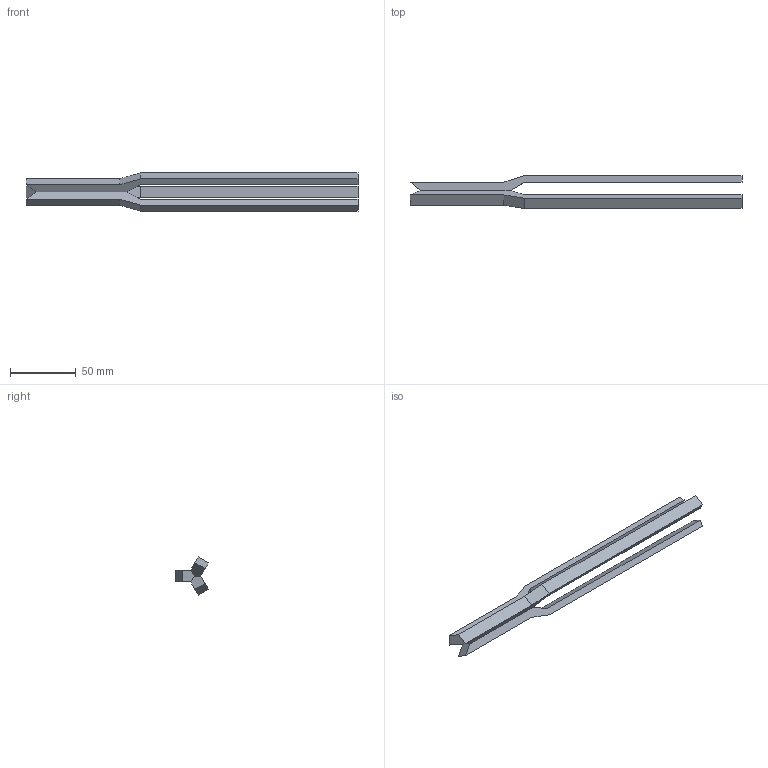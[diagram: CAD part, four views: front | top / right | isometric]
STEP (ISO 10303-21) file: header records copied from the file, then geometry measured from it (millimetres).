
FILE_DESCRIPTION(('FreeCAD Model'),'2;1');
FILE_NAME('Open CASCADE Shape Model','2025-04-03T05:10:46',(''),(''), 'Open CASCADE STEP processor 7.8','FreeCAD','Unknown');
FILE_SCHEMA(('AUTOMOTIVE_DESIGN { 1 0 10303 214 1 1 1 1 }'));
Length unit declared in the file: millimetre
Products named in the file (1): Fusion
Bounding box: 251.98 x 25.02 x 28.89 mm (x, y, z)
Volume: 39444.9 mm3; surface area: 20420 mm2
Topology: 1 solids, 1 shells, 27 faces, 69 edges, 44 vertices
Faces by surface type: plane 27
Entity records: 945 total; most frequent: CARTESIAN_POINT 141, ORIENTED_EDGE 138, DIRECTION 125, EDGE_CURVE 69, LINE 69, VECTOR 69, VERTEX_POINT 44, AXIS2_PLACEMENT_3D 28
